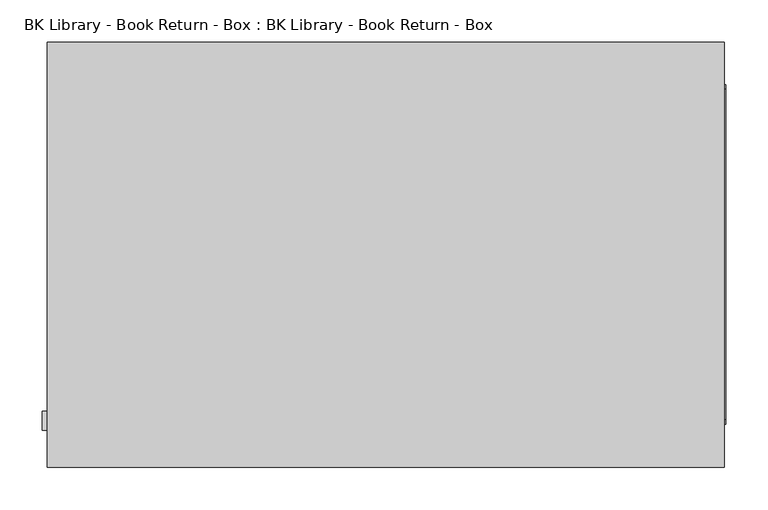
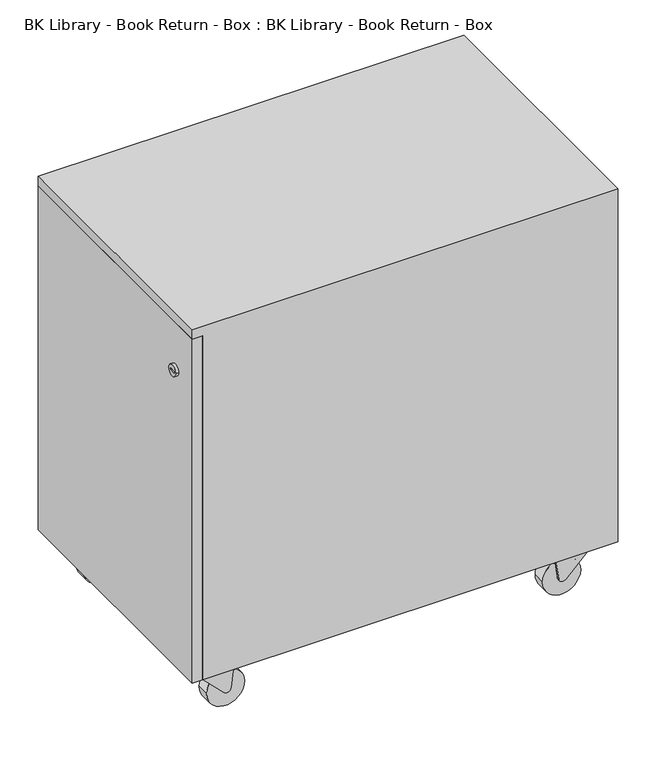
"""IFC4 building model written with IfcOpenShell, lengths in millimetres: furniture geometry, BK Library - Book Return - Box : BK Library - Book Return - Box."""

from ifc_helpers import new_model, si_unit, point, frame, frame_2d, origin, place, context, project, spatial, polyline, circle_curve, trimmed, segment, composite_curve, outline, extrude, source, transform, mapped, element, save
from ifc_brep_helpers import plane_surface, revolved_surface, advanced_brep


def bk_library_book_return_box_bk_library_book_return_box_61cadbcc(model_context):
    return source(origin(), model_context, "Body", "SolidModel", [
        extrude(outline(composite_curve([segment(polyline([(-200.0, 652.9690247), (-200.0, 732.9690247)]), True, "CONTINUOUS"), segment(trimmed(circle_curve(frame_2d((-195.0, 732.9690247)), 5.0), [point((-200.0, 732.9690247))], [point((-195.0, 737.9690247))], False, "CARTESIAN"), True, "CONTINUOUS"), segment(polyline([(-195.0, 737.9690247), (195.0, 737.9690247)]), True, "CONTINUOUS"), segment(trimmed(circle_curve(frame_2d((195.0, 732.9690247)), 5.0), [point((195.0, 737.9690247))], [point((200.0, 732.9690247))], False, "CARTESIAN"), True, "CONTINUOUS"), segment(polyline([(200.0, 732.9690247), (200.0, 652.9690247)]), True, "CONTINUOUS"), segment(trimmed(circle_curve(frame_2d((195.0, 652.9690247)), 5.0), [point((200.0, 652.9690247))], [point((195.0, 647.9690247))], False, "CARTESIAN"), True, "CONTINUOUS"), segment(polyline([(195.0, 647.9690247), (-195.0, 647.9690247)]), True, "CONTINUOUS"), segment(trimmed(circle_curve(frame_2d((-195.0, 652.9690247)), 5.0), [point((-195.0, 647.9690247))], [point((-200.0, 652.9690247))], False, "CARTESIAN"), True, "CONTINUOUS")], self_intersect=False), holes=[composite_curve([segment(polyline([(-180.0, 712.9690247), (-180.0, 667.9690247), (180.0, 667.9690247), (180.0, 712.9690247)]), True, "CONTINUOUS"), segment(trimmed(circle_curve(frame_2d((175.0, 712.9690247)), 5.0), [point((180.0, 712.9690247))], [point((175.0, 717.9690247))], True, "CARTESIAN"), True, "CONTINUOUS"), segment(polyline([(175.0, 717.9690247), (-175.0, 717.9690247)]), True, "CONTINUOUS"), segment(trimmed(circle_curve(frame_2d((-175.0, 712.9690247)), 5.0), [point((-175.0, 717.9690247))], [point((-180.0, 712.9690247))], True, "CARTESIAN"), True, "CONTINUOUS")], self_intersect=False)]), frame((399.0, 0.0, 0.0), z_axis=(1.0, 0.0, 0.0), x_axis=(0.0, 1.0, 0.0)), (0.0, 0.0, 1.0), 1.5),
        advanced_brep(
        [(380.0, 225.0, 117.9690471), (380.0, -225.0, 117.9690471), (380.0, -225.0, 777.9636623), (380.0, 225.0, 777.9636623), (380.0, 175.0, 717.9690247), (380.0, -175.0, 717.9690247), (380.0, -180.0, 712.9690247), (380.0, -180.0, 667.9690247), (380.0, 180.0, 667.9690247), (380.0, 180.0, 712.9690247), (399.0, 250.0, 796.9636623), (399.0, -251.0, 796.9636623), (399.0, -251.0, 97.0), (399.0, 250.0, 97.0), (399.0, 175.0, 717.9690247), (399.0, 180.0, 712.9690247), (399.0, 180.0, 667.9690247), (399.0, -180.0, 667.9690247), (399.0, -180.0, 712.9690247), (399.0, -175.0, 717.9690247), (-380.0, 250.0, 97.0), (-380.0, -251.0, 97.0), (-380.0, -251.0, 777.9636623), (-380.0, -225.0, 777.9636623), (-380.0, -225.0, 117.9690471), (-380.0, 225.0, 117.9690471), (-380.0, 225.0, 777.9636623), (-380.0, 250.0, 777.9636623), (-399.0, 250.0, 777.9636623), (-399.0, 250.0, 796.9636623), (-399.0, -251.0, 796.9636623), (-399.0, -251.0, 777.9636623)],
        [
            (0, 1),
            (1, 2),
            (2, 3),
            (3, 0),
            (4, 5),
            (5, 6, circle_curve(frame((380.0, -175.0, 712.9690247), z_axis=(1.0, 0.0, 0.0), x_axis=(0.0, 1.0, 0.0)), 5.0)),
            (6, 7),
            (7, 8),
            (8, 9),
            (9, 4, circle_curve(frame((380.0, 175.0, 712.9690247), z_axis=(1.0, 0.0, 0.0), x_axis=(0.0, 1.0, 0.0)), 5.0)),
            (10, 11),
            (11, 12),
            (12, 13),
            (13, 10),
            (14, 15, circle_curve(frame((399.0, 175.0, 712.9690247), z_axis=(-1.0, 0.0, 0.0), x_axis=(0.0, 1.0, 0.0)), 5.0)),
            (15, 16),
            (16, 17),
            (17, 18),
            (18, 19, circle_curve(frame((399.0, -175.0, 712.9690247), z_axis=(-1.0, 0.0, 0.0), x_axis=(0.0, 1.0, 0.0)), 5.0)),
            (19, 14),
            (20, 21),
            (21, 22),
            (22, 23),
            (23, 24),
            (24, 25),
            (25, 26),
            (26, 27),
            (27, 20),
            (24, 1),
            (0, 25),
            (12, 21),
            (20, 13),
            (27, 28),
            (28, 29),
            (29, 10),
            (29, 30),
            (30, 11),
            (30, 31),
            (31, 22),
            (2, 23),
            (31, 28),
            (26, 3),
            (4, 14),
            (19, 5),
            (18, 6),
            (17, 7),
            (16, 8),
            (15, 9),
        ],
        [
            plane_surface(frame((380.0, -225.0, 134.7192085), z_axis=(-1.0, 0.0, 0.0), x_axis=(0.0, 0.0, 1.0))),
            plane_surface(frame((399.0, -225.0, 134.7192085), z_axis=(1.0, 0.0, 0.0), x_axis=(0.0, 0.0, -1.0))),
            plane_surface(frame((-380.0, 194.2115841, 117.9690471), z_axis=(-1.0, 0.0, 0.0), x_axis=(0.0, 1.0, 0.0))),
            plane_surface(frame((399.0, 225.0, 117.9690471), z_axis=(0.0, 0.0, 1.0), x_axis=(-1.0, 0.0, 0.0))),
            plane_surface(frame((399.0, -251.0, 97.0), z_axis=(0.0, 0.0, -1.0), x_axis=(-1.0, 0.0, 0.0))),
            plane_surface(frame((399.0, 250.0, 97.0), z_axis=(0.0, 1.0, 0.0), x_axis=(-1.0, 0.0, 0.0))),
            plane_surface(frame((399.0, 250.0, 796.9636623), z_axis=(0.0, 0.0, 1.0), x_axis=(-1.0, 0.0, 0.0))),
            plane_surface(frame((399.0, -251.0, 796.9636623), z_axis=(0.0, -1.0, 0.0), x_axis=(-1.0, 0.0, 0.0))),
            plane_surface(frame((399.0, -225.0, 777.9636623), z_axis=(0.0, 0.0, -1.0), x_axis=(-1.0, 0.0, 0.0))),
            plane_surface(frame((399.0, 225.0, 777.9636623), z_axis=(0.0, -1.0, 0.0), x_axis=(-1.0, 0.0, 0.0))),
            plane_surface(frame((399.0, -225.0, 117.9690471), z_axis=(0.0, 1.0, 0.0), x_axis=(-1.0, 0.0, 0.0))),
            plane_surface(frame((380.0, 175.0, 717.9690247), z_axis=(0.0, -1.3354072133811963e-11, -1.0), x_axis=(1.0, 0.0, 0.0))),
            revolved_surface(polyline([(399.0, -170.0, 712.9690247), (380.0, -170.0, 712.9690247)]), (0.0, -175.0, 712.9690247), (1.0, 0.0, 0.0)),
            plane_surface(frame((380.0, -180.0, 712.9690247), z_axis=(0.0, 1.0, 0.0), x_axis=(1.0, 0.0, 0.0))),
            plane_surface(frame((380.0, -180.0, 667.9690247), z_axis=(0.0, 0.0, 1.0), x_axis=(1.0, 0.0, 0.0))),
            plane_surface(frame((380.0, 180.0, 667.9690247), z_axis=(0.0, -1.0, 1.341100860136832e-11), x_axis=(1.0, 0.0, 0.0))),
            revolved_surface(polyline([(399.0, 180.0, 712.9690247), (380.0, 180.0, 712.9690247)]), (0.0, 175.0, 712.9690247), (1.0, 0.0, 0.0)),
            plane_surface(frame((-399.0, -251.0, 1421.2081161), z_axis=(-1.0, 0.0, 0.0), x_axis=(0.0, 0.0, 1.0))),
        ],
        [
            (0, [[1, 2, 3, 4], [5, 6, 7, 8, 9, 10]]),
            (1, [[11, 12, 13, 14], [15, 16, 17, 18, 19, 20]]),
            (2, [[21, 22, 23, 24, 25, 26, 27, 28]]),
            (3, [[-25, 29, -1, 30]]),
            (4, [[-13, 31, -21, 32]]),
            (5, [[-14, -32, -28, 33, 34, 35]]),
            (6, [[-11, -35, 36, 37]]),
            (7, [[-12, -37, 38, 39, -22, -31]]),
            (8, [[40, -23, -39, 41, -33, -27, 42, -3]]),
            (9, [[-26, -30, -4, -42]]),
            (10, [[-24, -40, -2, -29]]),
            (11, [[-5, 43, -20, 44]]),
            (12, [[-6, -44, -19, 45]]),
            (13, [[-7, -45, -18, 46]]),
            (14, [[-8, -46, -17, 47]]),
            (15, [[-9, -47, -16, 48]]),
            (16, [[-10, -48, -15, -43]]),
            (17, [[-36, -34, -41, -38]]),
        ],
    ),
        extrude(outline(composite_curve([segment(trimmed(circle_curve(frame_2d((350.5, 200.546849)), 12.5248147), [point((363.0248147, 200.546849))], [point((337.9751853, 200.546849))], False, "CARTESIAN"), True, "CONTINUOUS"), segment(trimmed(circle_curve(frame_2d((350.5, 200.546849)), 12.5248147), [point((337.9751853, 200.546849))], [point((363.0248147, 200.546849))], False, "CARTESIAN"), True, "CONTINUOUS")], self_intersect=False)), frame((0.0, 0.0, 87.7), z_axis=(0.0, 0.0, 1.0), x_axis=(1.0, 0.0, 0.0)), (0.0, 0.0, 1.0), 9.3),
        extrude(outline(composite_curve([segment(trimmed(circle_curve(frame_2d((72.665374, 287.589297)), 2.0), [point((72.665374, 285.589297))], [point((70.6957585, 287.2420006))], False, "CARTESIAN"), True, "CONTINUOUS"), segment(polyline([(70.6957585, 287.2420006), (68.1469989, 301.6967348)]), True, "CONTINUOUS"), segment(trimmed(circle_curve(frame_2d((66.1773834, 301.3494384)), 2.0), [point((68.1469989, 301.6967348))], [point((66.4454242, 303.3313956))], True, "CARTESIAN"), True, "CONTINUOUS"), segment(polyline([(66.4454242, 303.3313956), (34.4278369, 307.6614684)]), True, "CONTINUOUS"), segment(trimmed(circle_curve(frame_2d((35.5, 315.589297)), 8.0), [point((34.4278369, 307.6614684))], [point((29.8327739, 321.2357603))], False, "CARTESIAN"), True, "CONTINUOUS"), segment(polyline([(29.8327739, 321.2357603), (80.4985188, 372.0878103), (88.2, 372.0878103), (88.2, 285.589297), (72.665374, 285.589297)]), True, "CONTINUOUS")], self_intersect=False)), frame((0.0, 184.5, 0.0), z_axis=(0.0, 1.0, 0.0), x_axis=(0.0, 0.0, 1.0)), (0.0, 0.0, 1.0), 32.0),
        extrude(outline(composite_curve([segment(trimmed(circle_curve(frame_2d((35.6872146, 315.4857255)), 35.6947525), [point((35.6872146, 279.790973))], [point((35.6872146, 351.1804779))], False, "CARTESIAN"), True, "CONTINUOUS"), segment(trimmed(circle_curve(frame_2d((35.6872146, 315.4857255)), 35.6947525), [point((35.6872146, 351.1804779))], [point((35.6872146, 279.790973))], False, "CARTESIAN"), True, "CONTINUOUS")], self_intersect=False)), frame((0.0, 188.5, 0.0), z_axis=(0.0, 1.0, 0.0), x_axis=(0.0, 0.0, 1.0)), (0.0, 0.0, 1.0), 24.0),
        extrude(outline(composite_curve([segment(trimmed(circle_curve(frame_2d((350.5, -200.546849)), 12.5248147), [point((363.0248147, -200.546849))], [point((337.9751853, -200.546849))], False, "CARTESIAN"), True, "CONTINUOUS"), segment(trimmed(circle_curve(frame_2d((350.5, -200.546849)), 12.5248147), [point((337.9751853, -200.546849))], [point((363.0248147, -200.546849))], False, "CARTESIAN"), True, "CONTINUOUS")], self_intersect=False)), frame((0.0, 0.0, 87.7), z_axis=(0.0, 0.0, 1.0), x_axis=(1.0, 0.0, 0.0)), (0.0, 0.0, 1.0), 9.3),
        extrude(outline(composite_curve([segment(trimmed(circle_curve(frame_2d((72.665374, 287.589297)), 2.0), [point((72.665374, 285.589297))], [point((70.6957585, 287.2420006))], False, "CARTESIAN"), True, "CONTINUOUS"), segment(polyline([(70.6957585, 287.2420006), (68.1469989, 301.6967348)]), True, "CONTINUOUS"), segment(trimmed(circle_curve(frame_2d((66.1773834, 301.3494384)), 2.0), [point((68.1469989, 301.6967348))], [point((66.4454242, 303.3313956))], True, "CARTESIAN"), True, "CONTINUOUS"), segment(polyline([(66.4454242, 303.3313956), (34.4278369, 307.6614684)]), True, "CONTINUOUS"), segment(trimmed(circle_curve(frame_2d((35.5, 315.589297)), 8.0), [point((34.4278369, 307.6614684))], [point((29.8327739, 321.2357603))], False, "CARTESIAN"), True, "CONTINUOUS"), segment(polyline([(29.8327739, 321.2357603), (80.4985188, 372.0878103), (88.2, 372.0878103), (88.2, 285.589297), (72.665374, 285.589297)]), True, "CONTINUOUS")], self_intersect=False)), frame((0.0, -216.5, 0.0), z_axis=(0.0, 1.0, 0.0), x_axis=(0.0, 0.0, 1.0)), (0.0, 0.0, 1.0), 32.0),
        extrude(outline(composite_curve([segment(trimmed(circle_curve(frame_2d((35.6872146, 315.4857255)), 35.6947525), [point((35.6872146, 279.790973))], [point((35.6872146, 351.1804779))], False, "CARTESIAN"), True, "CONTINUOUS"), segment(trimmed(circle_curve(frame_2d((35.6872146, 315.4857255)), 35.6947525), [point((35.6872146, 351.1804779))], [point((35.6872146, 279.790973))], False, "CARTESIAN"), True, "CONTINUOUS")], self_intersect=False)), frame((0.0, -212.5, 0.0), z_axis=(0.0, 1.0, 0.0), x_axis=(0.0, 0.0, 1.0)), (0.0, 0.0, 1.0), 24.0),
        extrude(outline(composite_curve([segment(trimmed(circle_curve(frame_2d((-349.5292285, -200.546849)), 12.5248147), [point((-362.0540432, -200.546849))], [point((-337.0044137, -200.546849))], False, "CARTESIAN"), True, "CONTINUOUS"), segment(trimmed(circle_curve(frame_2d((-349.5292285, -200.546849)), 12.5248147), [point((-337.0044137, -200.546849))], [point((-362.0540432, -200.546849))], False, "CARTESIAN"), True, "CONTINUOUS")], self_intersect=False)), frame((0.0, 0.0, 87.7), z_axis=(0.0, 0.0, 1.0), x_axis=(1.0, 0.0, 0.0)), (0.0, 0.0, 1.0), 9.3),
        extrude(outline(composite_curve([segment(polyline([(72.665374, -284.6185255), (88.2, -284.6185255), (88.2, -371.1170388), (80.4985188, -371.1170388), (29.8327739, -320.2649888)]), True, "CONTINUOUS"), segment(trimmed(circle_curve(frame_2d((35.5, -314.6185255)), 8.0), [point((29.8327739, -320.2649888))], [point((34.4278369, -306.6906969))], False, "CARTESIAN"), True, "CONTINUOUS"), segment(polyline([(34.4278369, -306.6906969), (66.4454242, -302.360624)]), True, "CONTINUOUS"), segment(trimmed(circle_curve(frame_2d((66.1773834, -300.3786669)), 2.0), [point((66.4454242, -302.360624))], [point((68.1469989, -300.7259632))], True, "CARTESIAN"), True, "CONTINUOUS"), segment(polyline([(68.1469989, -300.7259632), (70.6957585, -286.2712291)]), True, "CONTINUOUS"), segment(trimmed(circle_curve(frame_2d((72.665374, -286.6185255)), 2.0), [point((70.6957585, -286.2712291))], [point((72.665374, -284.6185255))], False, "CARTESIAN"), True, "CONTINUOUS")], self_intersect=False)), frame((0.0, -216.5, 0.0), z_axis=(0.0, 1.0, 0.0), x_axis=(0.0, 0.0, 1.0)), (0.0, 0.0, 1.0), 32.0),
        extrude(outline(composite_curve([segment(trimmed(circle_curve(frame_2d((35.6872146, -314.5149539)), 35.6947525), [point((35.6872146, -278.8202015))], [point((35.6872146, -350.2097064))], False, "CARTESIAN"), True, "CONTINUOUS"), segment(trimmed(circle_curve(frame_2d((35.6872146, -314.5149539)), 35.6947525), [point((35.6872146, -350.2097064))], [point((35.6872146, -278.8202015))], False, "CARTESIAN"), True, "CONTINUOUS")], self_intersect=False)), frame((0.0, -212.5, 0.0), z_axis=(0.0, 1.0, 0.0), x_axis=(0.0, 0.0, 1.0)), (0.0, 0.0, 1.0), 24.0),
        extrude(outline(composite_curve([segment(trimmed(circle_curve(frame_2d((-195.9999965, 684.8770454)), 11.0), [point((-206.9999965, 684.8770454))], [point((-184.9999965, 684.8770454))], False, "CARTESIAN"), True, "CONTINUOUS"), segment(trimmed(circle_curve(frame_2d((-195.9999965, 684.8770454)), 11.0), [point((-184.9999965, 684.8770454))], [point((-206.9999965, 684.8770454))], False, "CARTESIAN"), True, "CONTINUOUS")], self_intersect=False), holes=[polyline([(-202.0000035, 686.3770313), (-202.0000035, 683.3770594), (-189.9999965, 683.3770594), (-189.9999965, 686.3770313), (-202.0000035, 686.3770313)])]), frame((-404.9012808, 0.0, 0.0), z_axis=(1.0, 0.0, 0.0), x_axis=(0.0, 1.0, 0.0)), (0.0, 0.0, 1.0), 5.9012808),
        extrude(outline(composite_curve([segment(trimmed(circle_curve(frame_2d((-349.5292285, 200.546849)), 12.5248147), [point((-362.0540432, 200.546849))], [point((-337.0044137, 200.546849))], False, "CARTESIAN"), True, "CONTINUOUS"), segment(trimmed(circle_curve(frame_2d((-349.5292285, 200.546849)), 12.5248147), [point((-337.0044137, 200.546849))], [point((-362.0540432, 200.546849))], False, "CARTESIAN"), True, "CONTINUOUS")], self_intersect=False)), frame((0.0, 0.0, 87.7), z_axis=(0.0, 0.0, 1.0), x_axis=(1.0, 0.0, 0.0)), (0.0, 0.0, 1.0), 9.3),
        extrude(outline(composite_curve([segment(polyline([(72.665374, -284.6185255), (88.2, -284.6185255), (88.2, -371.1170388), (80.4985188, -371.1170388), (29.8327739, -320.2649888)]), True, "CONTINUOUS"), segment(trimmed(circle_curve(frame_2d((35.5, -314.6185255)), 8.0), [point((29.8327739, -320.2649888))], [point((34.4278369, -306.6906969))], False, "CARTESIAN"), True, "CONTINUOUS"), segment(polyline([(34.4278369, -306.6906969), (66.4454242, -302.360624)]), True, "CONTINUOUS"), segment(trimmed(circle_curve(frame_2d((66.1773834, -300.3786669)), 2.0), [point((66.4454242, -302.360624))], [point((68.1469989, -300.7259632))], True, "CARTESIAN"), True, "CONTINUOUS"), segment(polyline([(68.1469989, -300.7259632), (70.6957585, -286.2712291)]), True, "CONTINUOUS"), segment(trimmed(circle_curve(frame_2d((72.665374, -286.6185255)), 2.0), [point((70.6957585, -286.2712291))], [point((72.665374, -284.6185255))], False, "CARTESIAN"), True, "CONTINUOUS")], self_intersect=False)), frame((0.0, 184.5, 0.0), z_axis=(0.0, 1.0, 0.0), x_axis=(0.0, 0.0, 1.0)), (0.0, 0.0, 1.0), 32.0),
        extrude(outline(composite_curve([segment(trimmed(circle_curve(frame_2d((35.6872146, -314.5149539)), 35.6947525), [point((35.6872146, -278.8202015))], [point((35.6872146, -350.2097064))], False, "CARTESIAN"), True, "CONTINUOUS"), segment(trimmed(circle_curve(frame_2d((35.6872146, -314.5149539)), 35.6947525), [point((35.6872146, -350.2097064))], [point((35.6872146, -278.8202015))], False, "CARTESIAN"), True, "CONTINUOUS")], self_intersect=False)), frame((0.0, 188.5, 0.0), z_axis=(0.0, 1.0, 0.0), x_axis=(0.0, 0.0, 1.0)), (0.0, 0.0, 1.0), 24.0),
        extrude(outline(polyline([(-380.0, 250.0), (-380.0, -251.0), (-399.0, -251.0), (-399.0, 250.0), (-380.0, 250.0)])), frame((0.0, 0.0, 97.0), z_axis=(0.0, 0.0, 1.0), x_axis=(1.0, 0.0, 0.0)), (0.0, 0.0, 1.0), 680.9636623),
    ])


if __name__ == "__main__":
    model = new_model("IFC4")
    model_context = context("Model", 3, world=origin())
    ifc_project = project(units=[si_unit("LENGTHUNIT", "METRE", prefix="MILLI")], contexts=[model_context])
    site = spatial("IfcSite", under=ifc_project)
    building = spatial("IfcBuilding", under=site)
    placement = place(None, origin())
    bk_library_book_return_box_bk_library_book_return_box_shape = bk_library_book_return_box_bk_library_book_return_box_61cadbcc(model_context)
    element("IfcFurniture", 1, ObjectType="BK Library - Book Return - Box : BK Library - Book Return - Box", at=placement, inside=building, context=model_context, shape_type="MappedRepresentation", body=[
        mapped(bk_library_book_return_box_bk_library_book_return_box_shape, transform((0.0, 0.0, 0.0), x_axis=(1.0, 0.0, 0.0), y_axis=(0.0, 1.0, 0.0), z_axis=(0.0, 0.0, 1.0))),
    ])
    save(model, "model.ifc")
